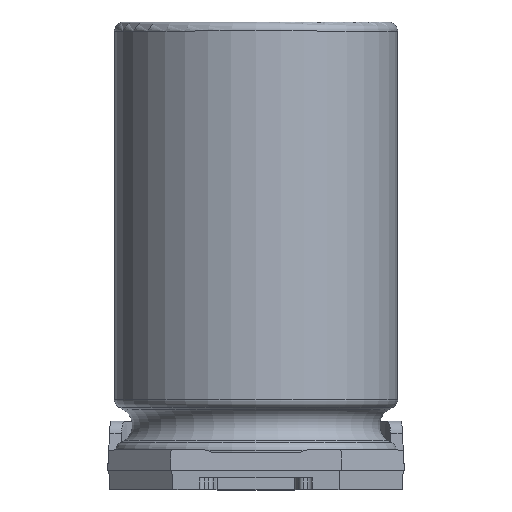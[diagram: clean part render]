
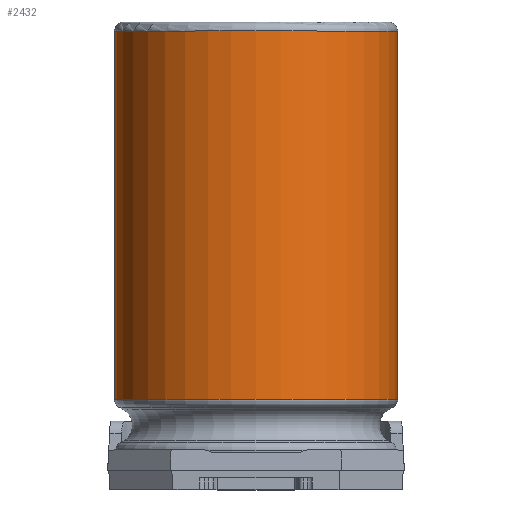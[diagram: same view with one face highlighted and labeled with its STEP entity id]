
A CAD part, top view. The second image highlights one B-rep face of the part: STEP entity #2432.
In plain terms, the highlighted cylindrical face has radius 3.15 mm (diameter 6.3 mm), a full revolution.
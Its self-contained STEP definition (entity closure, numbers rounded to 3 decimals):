
#447 = DIRECTION ( 'NONE',  ( 0., 0., -1. ) ) ;
#606 = DIRECTION ( 'NONE',  ( 0., 0., -1. ) ) ;
#887 = EDGE_LOOP ( 'NONE', ( #5169 ) ) ;
#890 = CYLINDRICAL_SURFACE ( 'NONE', #2471, 3.15 ) ;
#1116 = EDGE_CURVE ( 'NONE', #1825, #1825, #4864, .T. ) ;
#1320 = DIRECTION ( 'NONE',  ( 0., -1., 0. ) ) ;
#1507 = AXIS2_PLACEMENT_3D ( 'NONE', #1709, #1320, #4052 ) ;
#1579 = EDGE_CURVE ( 'NONE', #2324, #2324, #1754, .T. ) ;
#1709 = CARTESIAN_POINT ( 'NONE',  ( 0., 1.577, 0. ) ) ;
#1754 = CIRCLE ( 'NONE', #1507, 3.15 ) ;
#1820 = ORIENTED_EDGE ( 'NONE', *, *, #1579, .F. ) ;
#1825 = VERTEX_POINT ( 'NONE', #2344 ) ;
#1930 = CARTESIAN_POINT ( 'NONE',  ( 0., 1.577, -3.15 ) ) ;
#2203 = AXIS2_PLACEMENT_3D ( 'NONE', #4584, #3105, #606 ) ;
#2324 = VERTEX_POINT ( 'NONE', #1930 ) ;
#2344 = CARTESIAN_POINT ( 'NONE',  ( 0., 9.77, -3.15 ) ) ;
#2432 = ADVANCED_FACE ( 'NONE', ( #3234, #4393 ), #890, .T. ) ;
#2453 = CARTESIAN_POINT ( 'NONE',  ( 0., 0., 0. ) ) ;
#2471 = AXIS2_PLACEMENT_3D ( 'NONE', #2453, #4820, #447 ) ;
#2707 = EDGE_LOOP ( 'NONE', ( #1820 ) ) ;
#3105 = DIRECTION ( 'NONE',  ( 0., -1., 0. ) ) ;
#3234 = FACE_OUTER_BOUND ( 'NONE', #887, .T. ) ;
#4052 = DIRECTION ( 'NONE',  ( 0., 0., -1. ) ) ;
#4393 = FACE_OUTER_BOUND ( 'NONE', #2707, .T. ) ;
#4584 = CARTESIAN_POINT ( 'NONE',  ( 0., 9.77, 0. ) ) ;
#4820 = DIRECTION ( 'NONE',  ( 0., -1., 0. ) ) ;
#4864 = CIRCLE ( 'NONE', #2203, 3.15 ) ;
#5169 = ORIENTED_EDGE ( 'NONE', *, *, #1116, .T. ) ;
